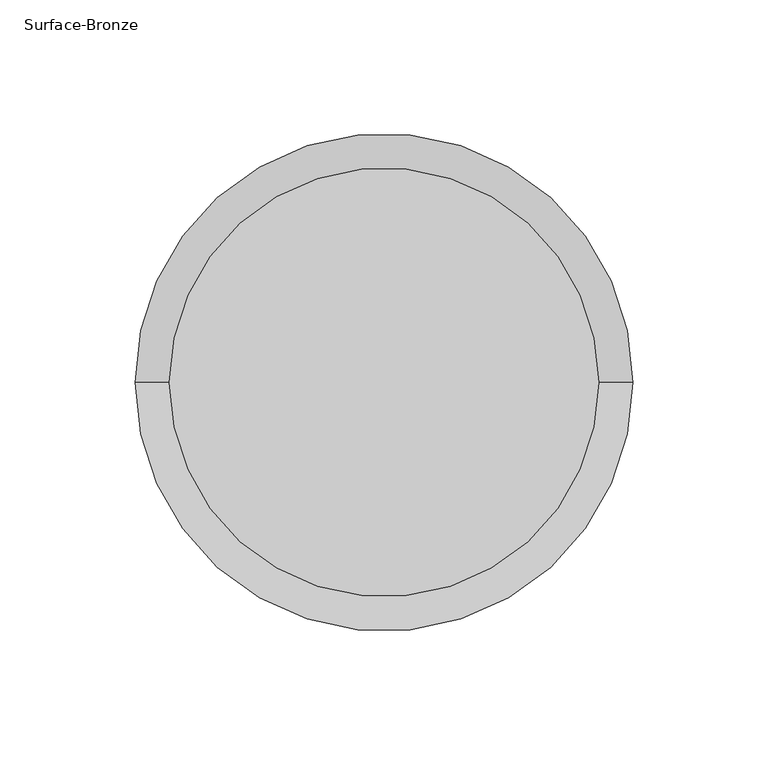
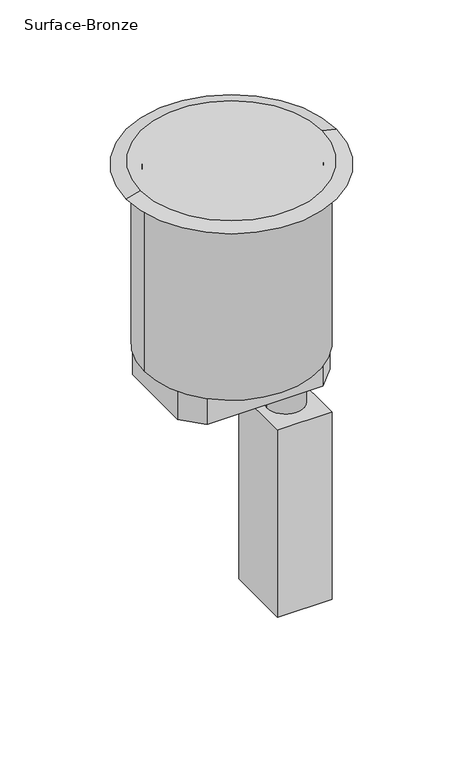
"""IFC4 building model written with IfcOpenShell, lengths in millimetres: proxy geometry, Poke_Thru-Evolution_6AT_Series-Wiremold-Prewired : Surface-Bronze."""

from ifc_helpers import new_model, si_unit, point, frame, frame_2d, origin, origin_with_axes, place, context, project, spatial, polyline, circle_curve, trimmed, segment, composite_curve, outline, extrude, source, transform, mapped, element, save
from ifc_brep_helpers import plane_surface, cylinder_surface, revolved_surface, advanced_brep


def surface_bronze_d7694e16(model_context):
    return source(origin(), model_context, "Body", "SolidModel", [
        extrude(outline(polyline([(-21.8163935, 61.9125), (22.0523137, 61.9125), (27.78125, 56.9197167), (27.78125, -56.9197167), (22.0523137, -61.9125), (-21.8163935, -61.9125), (-27.78125, -56.9197167), (-27.78125, 56.9197167), (-21.8163935, 61.9125)])), frame((0.0, 0.0, -9.525), z_axis=(0.0, 0.0, 1.0), x_axis=(1.0, 0.0, 0.0)), (0.0, 0.0, 1.0), 3.175),
        advanced_brep(
        [(-79.375, 0.0, 0.0), (79.375, 0.0, 0.0), (-92.075, 0.0, -3.175), (92.075, 0.0, -3.175)],
        [
            (0, 1, circle_curve(frame((0.0, 0.0, 0.0), z_axis=(0.0, 0.0, 1.0), x_axis=(-1.0, 0.0, 0.0)), 79.375)),
            (1, 0, circle_curve(origin_with_axes(), 79.375)),
            (2, 3, circle_curve(frame((0.0, 0.0, -3.175), z_axis=(0.0, 0.0, -1.0), x_axis=(1.0, 0.0, 0.0)), 92.075)),
            (3, 2, circle_curve(frame((0.0, 0.0, -3.175), z_axis=(0.0, 0.0, -1.0), x_axis=(-1.0, 0.0, 0.0)), 92.075)),
            (3, 1),
            (0, 2),
        ],
        [
            plane_surface(frame((0.0, 0.0, 0.0), z_axis=(0.0, 0.0, 1.0), x_axis=(0.0, -1.0, 0.0))),
            plane_surface(frame((0.0, 0.0, -3.175), z_axis=(0.0, 0.0, -1.0), x_axis=(0.0, -1.0, 0.0))),
            revolved_surface(polyline([(-79.375, 0.0, 0.0), (-92.075, 0.0, -3.1750000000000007)]), (0.0, 0.0, 19.84375), (0.0, 0.0, -1.0)),
            revolved_surface(polyline([(79.375, 0.0, 0.0), (92.075, 0.0, -3.1750000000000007)]), (0.0, 0.0, 19.84375), (0.0, 0.0, -1.0)),
        ],
        [
            (0, [[1, 2]]),
            (1, [[3, 4]]),
            (2, [[-4, 5, -1, 6]]),
            (3, [[-3, -6, -2, -5]]),
        ],
    ),
        advanced_brep(
        [(69.85, 0.0, -9.525), (-69.85, 0.0, -9.525), (-76.2, 0.0, -168.275), (76.2, 0.0, -168.275), (76.2, 0.0, -9.525), (-76.2, 0.0, -9.525), (-76.2, 0.0, -3.175), (76.2, 0.0, -3.175), (-69.85, 0.0, -3.175), (69.85, 0.0, -3.175)],
        [
            (0, 1, circle_curve(frame((0.0, 0.0, -9.525), z_axis=(0.0, 0.0, 1.0), x_axis=(1.0, 0.0, 0.0)), 69.85)),
            (1, 0, circle_curve(frame((0.0, 0.0, -9.525), z_axis=(0.0, 0.0, 1.0), x_axis=(1.0, 0.0, 0.0)), 69.85)),
            (2, 3, circle_curve(frame((0.0, 0.0, -168.275), z_axis=(0.0, 0.0, -1.0), x_axis=(1.0, 0.0, 0.0)), 76.2)),
            (3, 2, circle_curve(frame((0.0, 0.0, -168.275), z_axis=(0.0, 0.0, -1.0), x_axis=(1.0, 0.0, 0.0)), 76.2)),
            (3, 4),
            (4, 5, circle_curve(frame((0.0, 0.0, -9.525), z_axis=(0.0, 0.0, -1.0), x_axis=(1.0, 0.0, 0.0)), 76.2)),
            (5, 2),
            (5, 4, circle_curve(frame((0.0, 0.0, -9.525), z_axis=(0.0, 0.0, -1.0), x_axis=(1.0, 0.0, 0.0)), 76.2)),
            (6, 7, circle_curve(frame((0.0, 0.0, -3.175), z_axis=(0.0, 0.0, 1.0), x_axis=(1.0, 0.0, 0.0)), 76.2)),
            (7, 6, circle_curve(frame((0.0, 0.0, -3.175), z_axis=(0.0, 0.0, 1.0), x_axis=(1.0, 0.0, 0.0)), 76.2)),
            (8, 9, circle_curve(frame((0.0, 0.0, -3.175), z_axis=(0.0, 0.0, -1.0), x_axis=(1.0, 0.0, 0.0)), 69.85)),
            (9, 8, circle_curve(frame((0.0, 0.0, -3.175), z_axis=(0.0, 0.0, -1.0), x_axis=(1.0, 0.0, 0.0)), 69.85)),
            (6, 5),
            (4, 7),
            (8, 1),
            (0, 9),
        ],
        [
            plane_surface(frame((76.2, 0.0, -9.525), z_axis=(0.0, 0.0, 1.0), x_axis=(0.0, 1.0, 0.0))),
            plane_surface(frame((76.2, 0.0, -168.275), z_axis=(0.0, 0.0, -1.0), x_axis=(0.0, -1.0, 0.0))),
            cylinder_surface(frame((0.0, 0.0, -168.275), z_axis=(0.0, 0.0, 1.0), x_axis=(1.0, 0.0, 0.0)), 76.2),
            plane_surface(frame((76.2, 0.0, -3.175), z_axis=(0.0, 0.0, 1.0), x_axis=(0.0, 1.0, 0.0))),
            cylinder_surface(frame((0.0, 0.0, -9.525), z_axis=(0.0, 0.0, 1.0), x_axis=(1.0, 0.0, 0.0)), 76.2),
            revolved_surface(polyline([(69.85, 0.0, -9.525), (69.85, 0.0, -3.175)]), (0.0, 0.0, 0.0), (0.0, 0.0, -1.0)),
        ],
        [
            (0, [[1, 2]]),
            (1, [[3, 4]]),
            (2, [[-4, 5, 6, 7]]),
            (2, [[-3, -7, 8, -5]]),
            (3, [[9, 10], [11, 12]]),
            (4, [[-9, 13, -6, 14]]),
            (4, [[-10, -14, -8, -13]]),
            (5, [[-11, 15, -1, 16]]),
            (5, [[-12, -16, -2, -15]]),
        ],
    ),
        extrude(outline(polyline([(50.8, 50.8), (66.675, 34.036), (66.675, -34.036), (50.8, -50.8), (-50.8, -50.8), (-66.675, -34.036), (-66.675, 34.036), (-50.8, 50.8), (50.8, 50.8)])), frame((0.0, 0.0, -195.2752), z_axis=(0.0, 0.0, 1.0), x_axis=(1.0, 0.0, 0.0)), (0.0, 0.0, 1.0), 27.0002),
        extrude(outline(composite_curve([segment(trimmed(circle_curve(frame_2d((47.244, 0.0)), 11.1252), [point((36.1188, 0.0))], [point((58.3692, 0.0))], False, "CARTESIAN"), True, "CONTINUOUS"), segment(trimmed(circle_curve(frame_2d((47.244, 0.0)), 11.1252), [point((58.3692, 0.0))], [point((36.1188, 0.0))], False, "CARTESIAN"), True, "CONTINUOUS")], self_intersect=False)), frame((0.0, 0.0, -220.6752), z_axis=(0.0, 0.0, 1.0), x_axis=(1.0, 0.0, 0.0)), (0.0, 0.0, 1.0), 25.4),
        extrude(outline(composite_curve([segment(trimmed(circle_curve(frame_2d((47.244, 0.0)), 16.0528), [point((31.1912, 0.0))], [point((63.2968, 0.0))], False, "CARTESIAN"), True, "CONTINUOUS"), segment(trimmed(circle_curve(frame_2d((47.244, 0.0)), 16.0528), [point((63.2968, 0.0))], [point((31.1912, 0.0))], False, "CARTESIAN"), True, "CONTINUOUS")], self_intersect=False)), frame((0.0, 0.0, -239.7252), z_axis=(0.0, 0.0, 1.0), x_axis=(1.0, 0.0, 0.0)), (0.0, 0.0, 1.0), 19.05),
        extrude(outline(polyline([(71.0438, 28.980332), (71.0438, -29.439668), (23.4442, -29.439668), (23.4442, 28.980332), (71.0438, 28.980332)])), frame((0.0, 0.0, -412.75), z_axis=(0.0, 0.0, 1.0), x_axis=(1.0, 0.0, 0.0)), (0.0, 0.0, 1.0), 173.0248),
        extrude(outline(composite_curve([segment(polyline([(-27.8003, -38.1), (-56.4048196, -38.1)]), True, "CONTINUOUS"), segment(trimmed(circle_curve(frame_2d((-2.7137129, 0.0)), 65.8357422), [point((-56.4048196, -38.1))], [point((-56.4048196, 38.1))], False, "CARTESIAN"), True, "CONTINUOUS"), segment(polyline([(-56.4048196, 38.1), (-27.8003, 38.1), (-27.8003, -38.1)]), True, "CONTINUOUS")], self_intersect=False)), frame((0.0, 0.0, -9.525), z_axis=(0.0, 0.0, 1.0), x_axis=(1.0, 0.0, 0.0)), (0.0, 0.0, 1.0), 3.175),
        extrude(outline(composite_curve([segment(polyline([(27.8003, -38.1), (27.8003, 38.1), (56.4048196, 38.1)]), True, "CONTINUOUS"), segment(trimmed(circle_curve(frame_2d((2.7137129, 0.0)), 65.8357422), [point((56.4048196, 38.1))], [point((56.4048196, -38.1))], False, "CARTESIAN"), True, "CONTINUOUS"), segment(polyline([(56.4048196, -38.1), (27.8003, -38.1)]), True, "CONTINUOUS")], self_intersect=False)), frame((0.0, 0.0, -9.525), z_axis=(0.0, 0.0, 1.0), x_axis=(1.0, 0.0, 0.0)), (0.0, 0.0, 1.0), 3.175),
    ])


if __name__ == "__main__":
    model = new_model("IFC4")
    model_context = context("Model", 3, world=origin())
    ifc_project = project(units=[si_unit("LENGTHUNIT", "METRE", prefix="MILLI")], contexts=[model_context])
    site = spatial("IfcSite", under=ifc_project)
    building = spatial("IfcBuilding", under=site)
    placement = place(None, origin())
    surface_bronze_shape = surface_bronze_d7694e16(model_context)
    element("IfcBuildingElementProxy", 1, Name="Poke_Thru-Evolution_6AT_Series-Wiremold-Prewired : Surface-Bronze", ObjectType="Poke_Thru-Evolution_6AT_Series-Wiremold-Prewired : Surface-Bronze", at=placement, inside=building, context=model_context, shape_type="MappedRepresentation", body=[
        mapped(surface_bronze_shape, transform((0.0, 0.0, 0.0), x_axis=(1.0, 0.0, 0.0), y_axis=(0.0, 1.0, 0.0), z_axis=(0.0, 0.0, 1.0))),
    ])
    save(model, "model.ifc")
